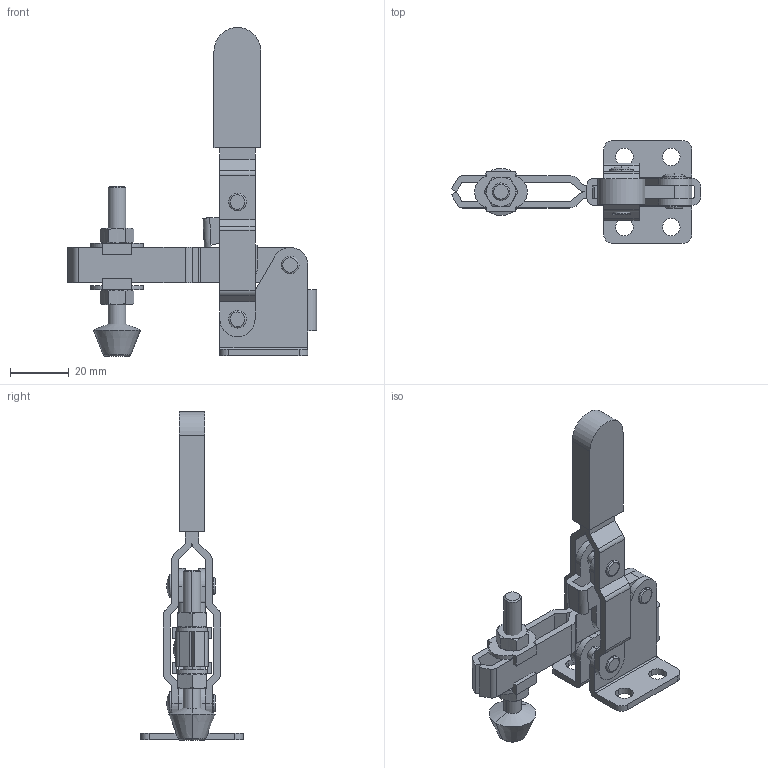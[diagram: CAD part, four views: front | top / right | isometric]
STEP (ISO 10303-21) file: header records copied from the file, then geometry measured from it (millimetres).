
FILE_DESCRIPTION(('CATIA V5 STEP Exchange'),'2;1');
FILE_NAME('D:\Model\toggle\toggle_standard\KJF_010_11F.stp','2005-06-24T04:49:28+00:00',('none'),('none'),'CATIA Version 5 Release 11 (IN-9)','CATIA V5 STEP AP203',' none');
FILE_SCHEMA(('CONFIG_CONTROL_DESIGN'));
Length unit declared in the file: millimetre
Products named in the file (1): Part1
Bounding box: 85 x 35 x 112.17 mm (x, y, z)
Volume: 25724.1 mm3; surface area: 22230 mm2
Topology: 13 solids, 13 shells, 332 faces, 877 edges, 572 vertices
Faces by surface type: plane 153, cylinder 125, cone 36, torus 10, sphere 8
Entity records: 9902 total; most frequent: CARTESIAN_POINT 2141, ORIENTED_EDGE 1738, DIRECTION 1271, EDGE_CURVE 869, VERTEX_POINT 572, AXIS2_PLACEMENT_3D 568, VECTOR 473, LINE 473
